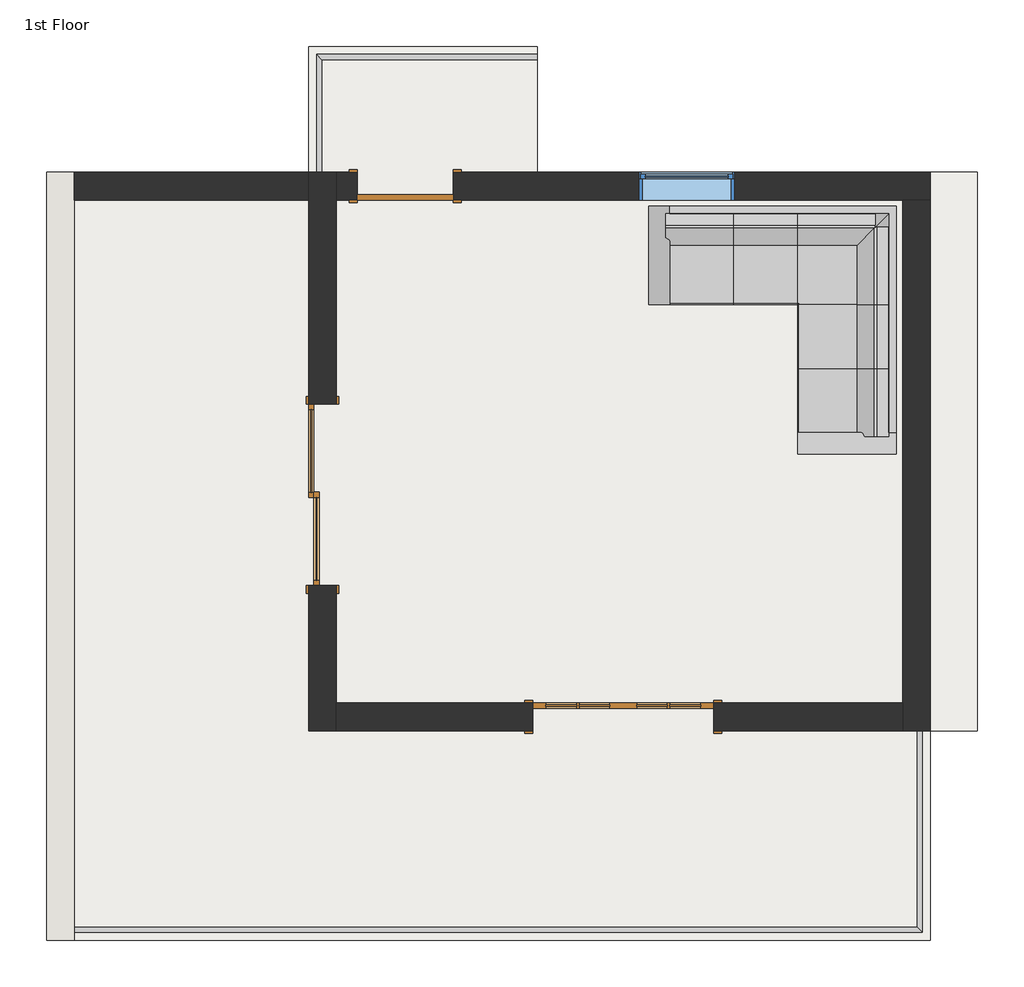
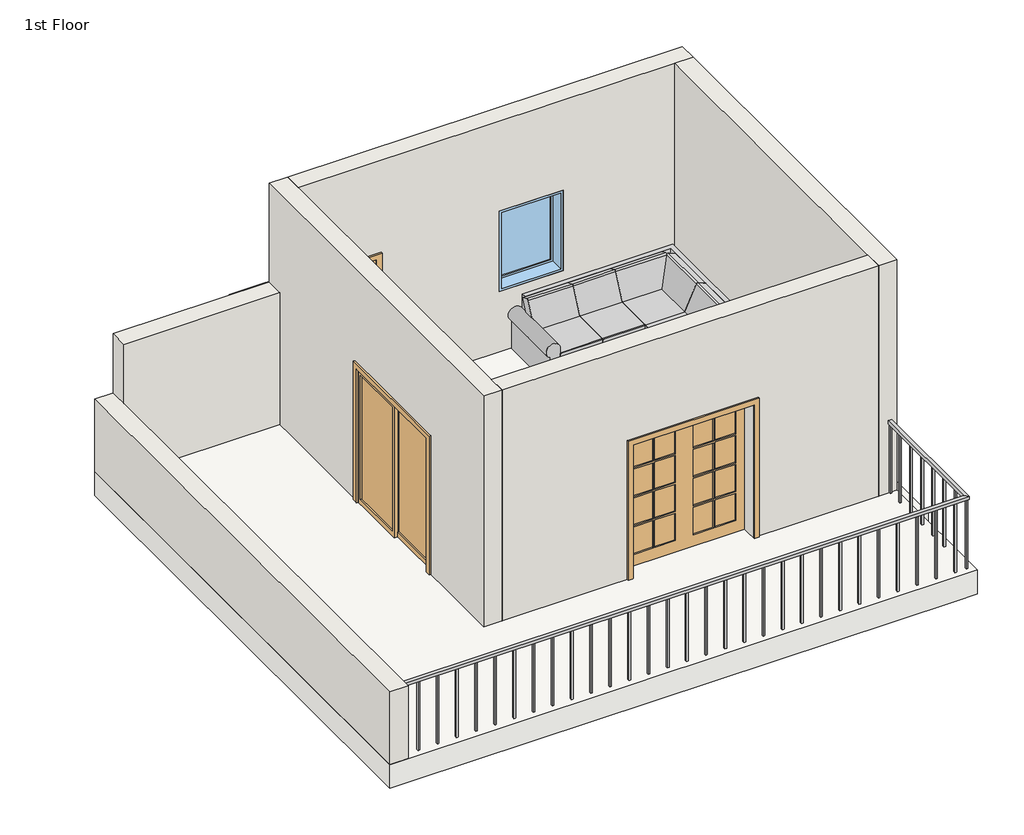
# One storey: 6 walls, 3 doors, 2 railings, 2 slabs, 1 furniture element, 1 window.
"""IFC4 building model written with IfcOpenShell, lengths in millimetres."""

from ifc_helpers import new_model, si_unit, frame, origin, place, context, project, spatial, polyline, outline, extrude, faceted_brep, transform, mapped, element, save
from components import m_double_glass_2_1730_x_2032mm_0b333e25, m_single_flush_0915_x_2032mm_d69fe862, m_sliding_2_panel_1730_x_2032mm_289bf79d, corner_sofa_2406_corner_sofa_2406_fdd71140, m_fixed_0915_x_1220mm_db24ddbb

model = new_model("IFC4")

# Units and contexts
model_context = context("Model", 3, world=origin())
ifc_project = project(units=[si_unit("LENGTHUNIT", "METRE", prefix="MILLI")], contexts=[model_context])

# Site, building, storey
site = spatial("IfcSite", under=ifc_project)
building = spatial("IfcBuilding", under=site)
storey = spatial("IfcBuildingStorey", under=building, Name="1st Floor", Elevation=3000.0)

# Doors
placement = place(None, origin())
m_double_glass_2_1730_x_2032mm_shape = m_double_glass_2_1730_x_2032mm_0b333e25(model_context)
element("IfcDoor", 1, ObjectType="M_Double-Glass 2 : 1730 x 2032mm", at=placement, inside=storey, context=model_context, shape_type="MappedRepresentation", body=[
    mapped(m_double_glass_2_1730_x_2032mm_shape, transform((-2112.164818, -4985.3309608, 3000.0), x_axis=(1.0, 0.0, 0.0), y_axis=(0.0, 1.0, 0.0), z_axis=(0.0, 0.0, 1.0))),
])
m_single_flush_0915_x_2032mm_shape = m_single_flush_0915_x_2032mm_d69fe862(model_context)
element("IfcDoor", 2, ObjectType="M_Single-Flush : 0915 x 2032mm", at=placement, inside=storey, context=model_context, shape_type="MappedRepresentation", body=[
    mapped(m_single_flush_0915_x_2032mm_shape, transform((-4190.664818, 78.6690392, 3000.0), x_axis=(-1.0, 0.0, 0.0), y_axis=(0.0, -1.0, 0.0), z_axis=(0.0, 0.0, 1.0))),
])
m_sliding_2_panel_1730_x_2032mm_shape = m_sliding_2_panel_1730_x_2032mm_289bf79d(model_context)
element("IfcDoor", 3, ObjectType="M_Sliding-2 Panel : 1730 x 2032mm", at=placement, inside=storey, context=model_context, shape_type="MappedRepresentation", body=[
    mapped(m_sliding_2_panel_1730_x_2032mm_shape, transform((-4853.164818, -2867.3309608, 3000.0), x_axis=(0.0, -1.0, 0.0), y_axis=(1.0, 0.0, 0.0), z_axis=(0.0, 0.0, 1.0))),
])

# Furniture
corner_sofa_2406_corner_sofa_2406_shape = corner_sofa_2406_corner_sofa_2406_fdd71140(model_context)
element("IfcFurniture", 4, ObjectType="Corner_Sofa_2406 : Corner_Sofa_2406", at=placement, inside=storey, context=model_context, shape_type="MappedRepresentation", body=[
    mapped(corner_sofa_2406_corner_sofa_2406_shape, transform((-588.164818, -113.3309608, 3000.0), x_axis=(1.0, 0.0, 0.0), y_axis=(0.0, 1.0, 0.0), z_axis=(0.0, 0.0, 1.0))),
])

# Railings
element("IfcRailing", 5, ObjectType="1100mm", at=placement, inside=storey, context=model_context, shape_type="SolidModel", body=[
    faceted_brep([(-7420.164818, -6992.3309608, 4100.0), (-7420.164818, -6992.3309608, 4050.0), (-7420.164818, -7042.3309608, 4050.0), (-7420.164818, -7042.3309608, 4100.0), (690.835182, -6992.3309608, 4100.0), (690.835182, -6992.3309608, 4050.0), (740.835182, -7042.3309608, 4050.0), (740.835182, -7042.3309608, 4100.0), (690.835182, -5117.3309608, 4100.0), (740.835182, -5117.3309608, 4100.0), (740.835182, -5117.3309608, 4050.0), (690.835182, -5117.3309608, 4050.0)], [[[0, 1, 2, 3]], [[1, 0, 4, 5]], [[2, 1, 5, 6]], [[3, 2, 6, 7]], [[0, 3, 7, 4]], [[8, 9, 10, 11]], [[5, 4, 8, 11]], [[6, 5, 11, 10]], [[7, 6, 10, 9]], [[4, 7, 9, 8]]]),
    extrude(outline(polyline([(728.335182, -5379.8309608), (703.335182, -5379.8309608), (703.335182, -5354.8309608), (728.335182, -5354.8309608), (728.335182, -5379.8309608)])), frame((0.0, 0.0, 3000.0), z_axis=(0.0, 0.0, 1.0), x_axis=(1.0, 0.0, 0.0)), (0.0, 0.0, 1.0), 1050.0),
    extrude(outline(polyline([(728.335182, -5654.8309608), (703.335182, -5654.8309608), (703.335182, -5629.8309608), (728.335182, -5629.8309608), (728.335182, -5654.8309608)])), frame((0.0, 0.0, 3000.0), z_axis=(0.0, 0.0, 1.0), x_axis=(1.0, 0.0, 0.0)), (0.0, 0.0, 1.0), 1050.0),
    extrude(outline(polyline([(728.335182, -5929.8309608), (703.335182, -5929.8309608), (703.335182, -5904.8309608), (728.335182, -5904.8309608), (728.335182, -5929.8309608)])), frame((0.0, 0.0, 3000.0), z_axis=(0.0, 0.0, 1.0), x_axis=(1.0, 0.0, 0.0)), (0.0, 0.0, 1.0), 1050.0),
    extrude(outline(polyline([(728.335182, -6204.8309608), (703.335182, -6204.8309608), (703.335182, -6179.8309608), (728.335182, -6179.8309608), (728.335182, -6204.8309608)])), frame((0.0, 0.0, 3000.0), z_axis=(0.0, 0.0, 1.0), x_axis=(1.0, 0.0, 0.0)), (0.0, 0.0, 1.0), 1050.0),
    extrude(outline(polyline([(728.335182, -6479.8309608), (703.335182, -6479.8309608), (703.335182, -6454.8309608), (728.335182, -6454.8309608), (728.335182, -6479.8309608)])), frame((0.0, 0.0, 3000.0), z_axis=(0.0, 0.0, 1.0), x_axis=(1.0, 0.0, 0.0)), (0.0, 0.0, 1.0), 1050.0),
    extrude(outline(polyline([(728.335182, -6754.8309608), (703.335182, -6754.8309608), (703.335182, -6729.8309608), (728.335182, -6729.8309608), (728.335182, -6754.8309608)])), frame((0.0, 0.0, 3000.0), z_axis=(0.0, 0.0, 1.0), x_axis=(1.0, 0.0, 0.0)), (0.0, 0.0, 1.0), 1050.0),
    extrude(outline(polyline([(542.335182, -7029.8309608), (542.335182, -7004.8309608), (567.335182, -7004.8309608), (567.335182, -7029.8309608), (542.335182, -7029.8309608)])), frame((0.0, 0.0, 3000.0), z_axis=(0.0, 0.0, 1.0), x_axis=(1.0, 0.0, 0.0)), (0.0, 0.0, 1.0), 1050.0),
    extrude(outline(polyline([(267.335182, -7029.8309608), (267.335182, -7004.8309608), (292.335182, -7004.8309608), (292.335182, -7029.8309608), (267.335182, -7029.8309608)])), frame((0.0, 0.0, 3000.0), z_axis=(0.0, 0.0, 1.0), x_axis=(1.0, 0.0, 0.0)), (0.0, 0.0, 1.0), 1050.0),
    extrude(outline(polyline([(-7.664818, -7029.8309608), (-7.664818, -7004.8309608), (17.335182, -7004.8309608), (17.335182, -7029.8309608), (-7.664818, -7029.8309608)])), frame((0.0, 0.0, 3000.0), z_axis=(0.0, 0.0, 1.0), x_axis=(1.0, 0.0, 0.0)), (0.0, 0.0, 1.0), 1050.0),
    extrude(outline(polyline([(-282.664818, -7029.8309608), (-282.664818, -7004.8309608), (-257.664818, -7004.8309608), (-257.664818, -7029.8309608), (-282.664818, -7029.8309608)])), frame((0.0, 0.0, 3000.0), z_axis=(0.0, 0.0, 1.0), x_axis=(1.0, 0.0, 0.0)), (0.0, 0.0, 1.0), 1050.0),
    extrude(outline(polyline([(-557.664818, -7029.8309608), (-557.664818, -7004.8309608), (-532.664818, -7004.8309608), (-532.664818, -7029.8309608), (-557.664818, -7029.8309608)])), frame((0.0, 0.0, 3000.0), z_axis=(0.0, 0.0, 1.0), x_axis=(1.0, 0.0, 0.0)), (0.0, 0.0, 1.0), 1050.0),
    extrude(outline(polyline([(-832.664818, -7029.8309608), (-832.664818, -7004.8309608), (-807.664818, -7004.8309608), (-807.664818, -7029.8309608), (-832.664818, -7029.8309608)])), frame((0.0, 0.0, 3000.0), z_axis=(0.0, 0.0, 1.0), x_axis=(1.0, 0.0, 0.0)), (0.0, 0.0, 1.0), 1050.0),
    extrude(outline(polyline([(-1107.664818, -7029.8309608), (-1107.664818, -7004.8309608), (-1082.664818, -7004.8309608), (-1082.664818, -7029.8309608), (-1107.664818, -7029.8309608)])), frame((0.0, 0.0, 3000.0), z_axis=(0.0, 0.0, 1.0), x_axis=(1.0, 0.0, 0.0)), (0.0, 0.0, 1.0), 1050.0),
    extrude(outline(polyline([(-1382.664818, -7029.8309608), (-1382.664818, -7004.8309608), (-1357.664818, -7004.8309608), (-1357.664818, -7029.8309608), (-1382.664818, -7029.8309608)])), frame((0.0, 0.0, 3000.0), z_axis=(0.0, 0.0, 1.0), x_axis=(1.0, 0.0, 0.0)), (0.0, 0.0, 1.0), 1050.0),
    extrude(outline(polyline([(-1657.664818, -7029.8309608), (-1657.664818, -7004.8309608), (-1632.664818, -7004.8309608), (-1632.664818, -7029.8309608), (-1657.664818, -7029.8309608)])), frame((0.0, 0.0, 3000.0), z_axis=(0.0, 0.0, 1.0), x_axis=(1.0, 0.0, 0.0)), (0.0, 0.0, 1.0), 1050.0),
    extrude(outline(polyline([(-1932.664818, -7029.8309608), (-1932.664818, -7004.8309608), (-1907.664818, -7004.8309608), (-1907.664818, -7029.8309608), (-1932.664818, -7029.8309608)])), frame((0.0, 0.0, 3000.0), z_axis=(0.0, 0.0, 1.0), x_axis=(1.0, 0.0, 0.0)), (0.0, 0.0, 1.0), 1050.0),
    extrude(outline(polyline([(-2207.664818, -7029.8309608), (-2207.664818, -7004.8309608), (-2182.664818, -7004.8309608), (-2182.664818, -7029.8309608), (-2207.664818, -7029.8309608)])), frame((0.0, 0.0, 3000.0), z_axis=(0.0, 0.0, 1.0), x_axis=(1.0, 0.0, 0.0)), (0.0, 0.0, 1.0), 1050.0),
    extrude(outline(polyline([(-2482.664818, -7029.8309608), (-2482.664818, -7004.8309608), (-2457.664818, -7004.8309608), (-2457.664818, -7029.8309608), (-2482.664818, -7029.8309608)])), frame((0.0, 0.0, 3000.0), z_axis=(0.0, 0.0, 1.0), x_axis=(1.0, 0.0, 0.0)), (0.0, 0.0, 1.0), 1050.0),
    extrude(outline(polyline([(-2757.664818, -7029.8309608), (-2757.664818, -7004.8309608), (-2732.664818, -7004.8309608), (-2732.664818, -7029.8309608), (-2757.664818, -7029.8309608)])), frame((0.0, 0.0, 3000.0), z_axis=(0.0, 0.0, 1.0), x_axis=(1.0, 0.0, 0.0)), (0.0, 0.0, 1.0), 1050.0),
    extrude(outline(polyline([(-3032.664818, -7029.8309608), (-3032.664818, -7004.8309608), (-3007.664818, -7004.8309608), (-3007.664818, -7029.8309608), (-3032.664818, -7029.8309608)])), frame((0.0, 0.0, 3000.0), z_axis=(0.0, 0.0, 1.0), x_axis=(1.0, 0.0, 0.0)), (0.0, 0.0, 1.0), 1050.0),
    extrude(outline(polyline([(-3307.664818, -7029.8309608), (-3307.664818, -7004.8309608), (-3282.664818, -7004.8309608), (-3282.664818, -7029.8309608), (-3307.664818, -7029.8309608)])), frame((0.0, 0.0, 3000.0), z_axis=(0.0, 0.0, 1.0), x_axis=(1.0, 0.0, 0.0)), (0.0, 0.0, 1.0), 1050.0),
    extrude(outline(polyline([(-3582.664818, -7029.8309608), (-3582.664818, -7004.8309608), (-3557.664818, -7004.8309608), (-3557.664818, -7029.8309608), (-3582.664818, -7029.8309608)])), frame((0.0, 0.0, 3000.0), z_axis=(0.0, 0.0, 1.0), x_axis=(1.0, 0.0, 0.0)), (0.0, 0.0, 1.0), 1050.0),
    extrude(outline(polyline([(-3857.664818, -7029.8309608), (-3857.664818, -7004.8309608), (-3832.664818, -7004.8309608), (-3832.664818, -7029.8309608), (-3857.664818, -7029.8309608)])), frame((0.0, 0.0, 3000.0), z_axis=(0.0, 0.0, 1.0), x_axis=(1.0, 0.0, 0.0)), (0.0, 0.0, 1.0), 1050.0),
    extrude(outline(polyline([(-4132.664818, -7029.8309608), (-4132.664818, -7004.8309608), (-4107.664818, -7004.8309608), (-4107.664818, -7029.8309608), (-4132.664818, -7029.8309608)])), frame((0.0, 0.0, 3000.0), z_axis=(0.0, 0.0, 1.0), x_axis=(1.0, 0.0, 0.0)), (0.0, 0.0, 1.0), 1050.0),
    extrude(outline(polyline([(-4407.664818, -7029.8309608), (-4407.664818, -7004.8309608), (-4382.664818, -7004.8309608), (-4382.664818, -7029.8309608), (-4407.664818, -7029.8309608)])), frame((0.0, 0.0, 3000.0), z_axis=(0.0, 0.0, 1.0), x_axis=(1.0, 0.0, 0.0)), (0.0, 0.0, 1.0), 1050.0),
    extrude(outline(polyline([(-4682.664818, -7029.8309608), (-4682.664818, -7004.8309608), (-4657.664818, -7004.8309608), (-4657.664818, -7029.8309608), (-4682.664818, -7029.8309608)])), frame((0.0, 0.0, 3000.0), z_axis=(0.0, 0.0, 1.0), x_axis=(1.0, 0.0, 0.0)), (0.0, 0.0, 1.0), 1050.0),
    extrude(outline(polyline([(-4957.664818, -7029.8309608), (-4957.664818, -7004.8309608), (-4932.664818, -7004.8309608), (-4932.664818, -7029.8309608), (-4957.664818, -7029.8309608)])), frame((0.0, 0.0, 3000.0), z_axis=(0.0, 0.0, 1.0), x_axis=(1.0, 0.0, 0.0)), (0.0, 0.0, 1.0), 1050.0),
    extrude(outline(polyline([(-5232.664818, -7029.8309608), (-5232.664818, -7004.8309608), (-5207.664818, -7004.8309608), (-5207.664818, -7029.8309608), (-5232.664818, -7029.8309608)])), frame((0.0, 0.0, 3000.0), z_axis=(0.0, 0.0, 1.0), x_axis=(1.0, 0.0, 0.0)), (0.0, 0.0, 1.0), 1050.0),
    extrude(outline(polyline([(-5507.664818, -7029.8309608), (-5507.664818, -7004.8309608), (-5482.664818, -7004.8309608), (-5482.664818, -7029.8309608), (-5507.664818, -7029.8309608)])), frame((0.0, 0.0, 3000.0), z_axis=(0.0, 0.0, 1.0), x_axis=(1.0, 0.0, 0.0)), (0.0, 0.0, 1.0), 1050.0),
    extrude(outline(polyline([(-5782.664818, -7029.8309608), (-5782.664818, -7004.8309608), (-5757.664818, -7004.8309608), (-5757.664818, -7029.8309608), (-5782.664818, -7029.8309608)])), frame((0.0, 0.0, 3000.0), z_axis=(0.0, 0.0, 1.0), x_axis=(1.0, 0.0, 0.0)), (0.0, 0.0, 1.0), 1050.0),
    extrude(outline(polyline([(-6057.664818, -7029.8309608), (-6057.664818, -7004.8309608), (-6032.664818, -7004.8309608), (-6032.664818, -7029.8309608), (-6057.664818, -7029.8309608)])), frame((0.0, 0.0, 3000.0), z_axis=(0.0, 0.0, 1.0), x_axis=(1.0, 0.0, 0.0)), (0.0, 0.0, 1.0), 1050.0),
    extrude(outline(polyline([(-6332.664818, -7029.8309608), (-6332.664818, -7004.8309608), (-6307.664818, -7004.8309608), (-6307.664818, -7029.8309608), (-6332.664818, -7029.8309608)])), frame((0.0, 0.0, 3000.0), z_axis=(0.0, 0.0, 1.0), x_axis=(1.0, 0.0, 0.0)), (0.0, 0.0, 1.0), 1050.0),
    extrude(outline(polyline([(-6607.664818, -7029.8309608), (-6607.664818, -7004.8309608), (-6582.664818, -7004.8309608), (-6582.664818, -7029.8309608), (-6607.664818, -7029.8309608)])), frame((0.0, 0.0, 3000.0), z_axis=(0.0, 0.0, 1.0), x_axis=(1.0, 0.0, 0.0)), (0.0, 0.0, 1.0), 1050.0),
    extrude(outline(polyline([(-6882.664818, -7029.8309608), (-6882.664818, -7004.8309608), (-6857.664818, -7004.8309608), (-6857.664818, -7029.8309608), (-6882.664818, -7029.8309608)])), frame((0.0, 0.0, 3000.0), z_axis=(0.0, 0.0, 1.0), x_axis=(1.0, 0.0, 0.0)), (0.0, 0.0, 1.0), 1050.0),
    extrude(outline(polyline([(-7157.664818, -7029.8309608), (-7157.664818, -7004.8309608), (-7132.664818, -7004.8309608), (-7132.664818, -7029.8309608), (-7157.664818, -7029.8309608)])), frame((0.0, 0.0, 3000.0), z_axis=(0.0, 0.0, 1.0), x_axis=(1.0, 0.0, 0.0)), (0.0, 0.0, 1.0), 1050.0),
    extrude(outline(polyline([(703.335182, -7029.8309608), (703.335182, -7004.8309608), (728.335182, -7004.8309608), (728.335182, -7029.8309608), (703.335182, -7029.8309608)])), frame((0.0, 0.0, 3000.0), z_axis=(0.0, 0.0, 1.0), x_axis=(1.0, 0.0, 0.0)), (0.0, 0.0, 1.0), 1050.0),
    extrude(outline(polyline([(728.335182, -5142.3309608), (703.335182, -5142.3309608), (703.335182, -5117.3309608), (728.335182, -5117.3309608), (728.335182, -5142.3309608)])), frame((0.0, 0.0, 3000.0), z_axis=(0.0, 0.0, 1.0), x_axis=(1.0, 0.0, 0.0)), (0.0, 0.0, 1.0), 1050.0),
    extrude(outline(polyline([(-7420.164818, -7029.8309608), (-7420.164818, -7004.8309608), (-7395.164818, -7004.8309608), (-7395.164818, -7029.8309608), (-7420.164818, -7029.8309608)])), frame((0.0, 0.0, 3000.0), z_axis=(0.0, 0.0, 1.0), x_axis=(1.0, 0.0, 0.0)), (0.0, 0.0, 1.0), 1050.0),
])
element("IfcRailing", 6, ObjectType="1100mm", at=placement, inside=storey, context=model_context, shape_type="SolidModel", body=[
    faceted_brep([(-2934.164818, 1285.6690392, 4100.0), (-2934.164818, 1285.6690392, 4050.0), (-2934.164818, 1335.6690392, 4050.0), (-2934.164818, 1335.6690392, 4100.0), (-4987.164818, 1285.6690392, 4100.0), (-4987.164818, 1285.6690392, 4050.0), (-5037.164818, 1335.6690392, 4050.0), (-5037.164818, 1335.6690392, 4100.0), (-4987.164818, 210.6690392, 4100.0), (-5037.164818, 210.6690392, 4100.0), (-5037.164818, 210.6690392, 4050.0), (-4987.164818, 210.6690392, 4050.0)], [[[0, 1, 2, 3]], [[1, 0, 4, 5]], [[2, 1, 5, 6]], [[3, 2, 6, 7]], [[0, 3, 7, 4]], [[8, 9, 10, 11]], [[5, 4, 8, 11]], [[6, 5, 11, 10]], [[7, 6, 10, 9]], [[4, 7, 9, 8]]]),
    extrude(outline(polyline([(-5024.664818, 498.1690392), (-4999.664818, 498.1690392), (-4999.664818, 473.1690392), (-5024.664818, 473.1690392), (-5024.664818, 498.1690392)])), frame((0.0, 0.0, 3000.0), z_axis=(0.0, 0.0, 1.0), x_axis=(1.0, 0.0, 0.0)), (0.0, 0.0, 1.0), 1050.0),
    extrude(outline(polyline([(-5024.664818, 773.1690392), (-4999.664818, 773.1690392), (-4999.664818, 748.1690392), (-5024.664818, 748.1690392), (-5024.664818, 773.1690392)])), frame((0.0, 0.0, 3000.0), z_axis=(0.0, 0.0, 1.0), x_axis=(1.0, 0.0, 0.0)), (0.0, 0.0, 1.0), 1050.0),
    extrude(outline(polyline([(-5024.664818, 1048.1690392), (-4999.664818, 1048.1690392), (-4999.664818, 1023.1690392), (-5024.664818, 1023.1690392), (-5024.664818, 1048.1690392)])), frame((0.0, 0.0, 3000.0), z_axis=(0.0, 0.0, 1.0), x_axis=(1.0, 0.0, 0.0)), (0.0, 0.0, 1.0), 1050.0),
    extrude(outline(polyline([(-4846.664818, 1323.1690392), (-4846.664818, 1298.1690392), (-4871.664818, 1298.1690392), (-4871.664818, 1323.1690392), (-4846.664818, 1323.1690392)])), frame((0.0, 0.0, 3000.0), z_axis=(0.0, 0.0, 1.0), x_axis=(1.0, 0.0, 0.0)), (0.0, 0.0, 1.0), 1050.0),
    extrude(outline(polyline([(-4571.664818, 1323.1690392), (-4571.664818, 1298.1690392), (-4596.664818, 1298.1690392), (-4596.664818, 1323.1690392), (-4571.664818, 1323.1690392)])), frame((0.0, 0.0, 3000.0), z_axis=(0.0, 0.0, 1.0), x_axis=(1.0, 0.0, 0.0)), (0.0, 0.0, 1.0), 1050.0),
    extrude(outline(polyline([(-4296.664818, 1323.1690392), (-4296.664818, 1298.1690392), (-4321.664818, 1298.1690392), (-4321.664818, 1323.1690392), (-4296.664818, 1323.1690392)])), frame((0.0, 0.0, 3000.0), z_axis=(0.0, 0.0, 1.0), x_axis=(1.0, 0.0, 0.0)), (0.0, 0.0, 1.0), 1050.0),
    extrude(outline(polyline([(-4021.664818, 1323.1690392), (-4021.664818, 1298.1690392), (-4046.664818, 1298.1690392), (-4046.664818, 1323.1690392), (-4021.664818, 1323.1690392)])), frame((0.0, 0.0, 3000.0), z_axis=(0.0, 0.0, 1.0), x_axis=(1.0, 0.0, 0.0)), (0.0, 0.0, 1.0), 1050.0),
    extrude(outline(polyline([(-3746.664818, 1323.1690392), (-3746.664818, 1298.1690392), (-3771.664818, 1298.1690392), (-3771.664818, 1323.1690392), (-3746.664818, 1323.1690392)])), frame((0.0, 0.0, 3000.0), z_axis=(0.0, 0.0, 1.0), x_axis=(1.0, 0.0, 0.0)), (0.0, 0.0, 1.0), 1050.0),
    extrude(outline(polyline([(-3471.664818, 1323.1690392), (-3471.664818, 1298.1690392), (-3496.664818, 1298.1690392), (-3496.664818, 1323.1690392), (-3471.664818, 1323.1690392)])), frame((0.0, 0.0, 3000.0), z_axis=(0.0, 0.0, 1.0), x_axis=(1.0, 0.0, 0.0)), (0.0, 0.0, 1.0), 1050.0),
    extrude(outline(polyline([(-3196.664818, 1323.1690392), (-3196.664818, 1298.1690392), (-3221.664818, 1298.1690392), (-3221.664818, 1323.1690392), (-3196.664818, 1323.1690392)])), frame((0.0, 0.0, 3000.0), z_axis=(0.0, 0.0, 1.0), x_axis=(1.0, 0.0, 0.0)), (0.0, 0.0, 1.0), 1050.0),
    extrude(outline(polyline([(-4999.664818, 1323.1690392), (-4999.664818, 1298.1690392), (-5024.664818, 1298.1690392), (-5024.664818, 1323.1690392), (-4999.664818, 1323.1690392)])), frame((0.0, 0.0, 3000.0), z_axis=(0.0, 0.0, 1.0), x_axis=(1.0, 0.0, 0.0)), (0.0, 0.0, 1.0), 1050.0),
    extrude(outline(polyline([(-5024.664818, 235.6690392), (-4999.664818, 235.6690392), (-4999.664818, 210.6690392), (-5024.664818, 210.6690392), (-5024.664818, 235.6690392)])), frame((0.0, 0.0, 3000.0), z_axis=(0.0, 0.0, 1.0), x_axis=(1.0, 0.0, 0.0)), (0.0, 0.0, 1.0), 1050.0),
    extrude(outline(polyline([(-2934.164818, 1323.1690392), (-2934.164818, 1298.1690392), (-2959.164818, 1298.1690392), (-2959.164818, 1323.1690392), (-2934.164818, 1323.1690392)])), frame((0.0, 0.0, 3000.0), z_axis=(0.0, 0.0, 1.0), x_axis=(1.0, 0.0, 0.0)), (0.0, 0.0, 1.0), 1050.0),
])

# Slabs
element("IfcSlab", 7, ObjectType="Beam and Block 200mm", at=placement, inside=storey, context=model_context, shape_type="SweptSolid", body=[
    extrude(outline(polyline([(815.835182, 210.6690392), (1265.835182, 210.6690392), (1265.835182, -5117.3309608), (815.835182, -5117.3309608), (815.835182, 210.6690392)])), frame((0.0, 0.0, 2300.0), z_axis=(0.0, 0.0, 1.0), x_axis=(1.0, 0.0, 0.0)), (0.0, 0.0, 1.0), 200.0),
])
element("IfcSlab", 8, ObjectType="Concrete-Commercial 362mm", at=placement, inside=storey, context=model_context, shape_type="Brep", body=[
    faceted_brep([(-5112.164818, 210.6690392, 2638.0), (-5112.164818, 1410.6690392, 2638.0), (-2934.164818, 1410.6690392, 2638.0), (-2934.164818, 210.6690392, 2638.0), (515.835182, 210.6690392, 2638.0), (815.835182, 210.6690392, 2638.0), (815.835182, -89.3309608, 2638.0), (815.835182, -6817.3309608, 2638.0), (815.835182, -7117.3309608, 2638.0), (515.835182, -7117.3309608, 2638.0), (-7312.164818, -7117.3309608, 2638.0), (-7612.164818, -7117.3309608, 2638.0), (-7612.164818, -6817.3309608, 2638.0), (-7612.164818, -89.3309608, 2638.0), (-7612.164818, 210.6690392, 2638.0), (-7312.164818, 210.6690392, 2638.0), (-5112.164818, 210.6690392, 3000.0), (-7612.164818, 210.6690392, 3000.0), (-7612.164818, -7117.3309608, 3000.0), (815.835182, -7117.3309608, 3000.0), (815.835182, 210.6690392, 3000.0), (-2934.164818, 210.6690392, 3000.0), (-2934.164818, 1410.6690392, 3000.0), (-5112.164818, 1410.6690392, 3000.0)], [[[0, 1, 2, 3, 4, 5, 6, 7, 8, 9, 10, 11, 12, 13, 14, 15]], [[16, 17, 18, 19, 20, 21, 22, 23]], [[8, 7, 6, 5, 20, 19]], [[11, 10, 9, 8, 19, 18]], [[14, 13, 12, 11, 18, 17]], [[0, 15, 14, 17, 16]], [[1, 0, 16, 23]], [[2, 1, 23, 22]], [[3, 2, 22, 21]], [[5, 4, 3, 21, 20]]]),
])

# Walls
element("IfcWall", 9, ObjectType="CW 102-50-100p  W Cornice", at=placement, inside=storey, context=model_context, shape_type="Brep", body=[
    faceted_brep([(-4848.164818, 210.6690392, 6500.0), (-4848.164818, -53.3309608, 6500.0), (-4848.164818, -4853.3309608, 6500.0), (-4848.164818, -5117.3309608, 6500.0), (-4848.164818, -5117.3309608, 3000.0), (-4848.164818, -4853.3309608, 3000.0), (-4848.164818, -3732.3309608, 3000.0), (-4848.164818, -3732.3309608, 5032.0), (-4848.164818, -2002.3309608, 5032.0), (-4848.164818, -2002.3309608, 3000.0), (-4848.164818, -53.3309608, 3000.0), (-4848.164818, 210.6690392, 3000.0), (-5112.164818, -5117.3309608, 6500.0), (-5112.164818, 210.6690392, 6500.0), (-5112.164818, 210.6690392, 5000.0), (-5112.164818, 210.6690392, 3000.0), (-5112.164818, -53.3309608, 3000.0), (-5112.164818, -2002.3309608, 3000.0), (-5112.164818, -2002.3309608, 5032.0), (-5112.164818, -3732.3309608, 5032.0), (-5112.164818, -3732.3309608, 3000.0), (-5112.164818, -5117.3309608, 3000.0)], [[[0, 1, 2, 3, 4, 5, 6, 7, 8, 9, 10, 11]], [[12, 13, 14, 15, 16, 17, 18, 19, 20, 21]], [[15, 11, 10, 9, 17, 16]], [[4, 21, 20, 6, 5]], [[3, 2, 1, 0, 13, 12]], [[4, 3, 12, 21]], [[11, 15, 14, 13, 0]], [[19, 7, 6, 20]], [[8, 18, 17, 9]], [[18, 8, 7, 19]]]),
])
element("IfcWall", 10, ObjectType="CW 102-50-100p  W Cornice", at=placement, inside=storey, context=model_context, shape_type="Brep", body=[
    faceted_brep([(-4848.164818, -53.3309608, 3000.0), (-4648.164818, -53.3309608, 3000.0), (-4648.164818, -53.3309608, 5032.0), (-3733.164818, -53.3309608, 5032.0), (-3733.164818, -53.3309608, 3000.0), (551.835182, -53.3309608, 3000.0), (815.835182, -53.3309608, 3000.0), (815.835182, -53.3309608, 6500.0), (551.835182, -53.3309608, 6500.0), (-4848.164818, -53.3309608, 6500.0), (-1048.164818, -53.3309608, 3915.0), (-1963.164818, -53.3309608, 3915.0), (-1963.164818, -53.3309608, 5135.0), (-1048.164818, -53.3309608, 5135.0), (-4648.164818, 210.6690392, 5032.0), (-4648.164818, 210.6690392, 3000.0), (-4848.164818, 210.6690392, 3000.0), (-4848.164818, 210.6690392, 6500.0), (815.835182, 210.6690392, 6500.0), (815.835182, 210.6690392, 3000.0), (-3733.164818, 210.6690392, 3000.0), (-3733.164818, 210.6690392, 5032.0), (-1048.164818, 210.6690392, 3915.0), (-1048.164818, 210.6690392, 5135.0), (-1963.164818, 210.6690392, 5135.0), (-1963.164818, 210.6690392, 3915.0)], [[[0, 1, 2, 3, 4, 5, 6, 7, 8, 9], [10, 11, 12, 13]], [[14, 15, 16, 17, 18, 19, 20, 21], [22, 23, 24, 25]], [[20, 19, 6, 5, 4]], [[16, 15, 1, 0]], [[9, 8, 7, 18, 17]], [[7, 6, 19, 18]], [[9, 17, 16, 0]], [[2, 1, 15, 14]], [[3, 2, 14, 21]], [[4, 3, 21, 20]], [[23, 22, 10, 13]], [[24, 23, 13, 12]], [[25, 24, 12, 11]], [[22, 25, 11, 10]]]),
])
element("IfcWall", 11, ObjectType="CW 102-50-100p  W Cornice", at=placement, inside=storey, context=model_context, shape_type="Brep", body=[
    faceted_brep([(551.835182, -53.3309608, 3000.0), (551.835182, -4853.3309608, 3000.0), (551.835182, -5117.3309608, 3000.0), (551.835182, -5117.3309608, 6500.0), (551.835182, -4853.3309608, 6500.0), (551.835182, -53.3309608, 6500.0), (815.835182, -53.3309608, 3000.0), (815.835182, -53.3309608, 6500.0), (815.835182, -5117.3309608, 6500.0), (815.835182, -5117.3309608, 3000.0)], [[[0, 1, 2, 3, 4, 5]], [[6, 7, 8, 9]], [[2, 1, 0, 6, 9]], [[5, 4, 3, 8, 7]], [[0, 5, 7, 6]], [[3, 2, 9, 8]]]),
])
element("IfcWall", 12, ObjectType="CW 102-50-100p  W Cornice", at=placement, inside=storey, context=model_context, shape_type="SweptSolid", body=[
    extrude(outline(polyline([(6500.0, 551.835182), (6500.0, -4848.164818), (3000.0, -4848.164818), (3000.0, -2977.164818), (5032.0, -2977.164818), (5032.0, -1247.164818), (3000.0, -1247.164818), (3000.0, 551.835182), (6500.0, 551.835182)])), frame((0.0, -5117.3309608, 0.0), z_axis=(0.0, 1.0, 0.0), x_axis=(0.0, 0.0, 1.0)), (0.0, 0.0, 1.0), 264.0),
])
element("IfcWall", 13, ObjectType="CW 102-50-100p", at=placement, inside=storey, context=model_context, shape_type="Brep", body=[
    faceted_brep([(-7612.164818, 210.6690392, 3000.0), (-7612.164818, -7117.3309608, 3000.0), (-7612.164818, -7117.3309608, 4100.0), (-7612.164818, 210.6690392, 4100.0), (-7348.164818, 210.6690392, 3000.0), (-7348.164818, 210.6690392, 4100.0), (-7348.164818, -7117.3309608, 4100.0), (-7348.164818, -7117.3309608, 3000.0), (-7348.164818, -53.3309608, 3000.0)], [[[0, 1, 2, 3]], [[4, 5, 6, 7, 8]], [[1, 0, 4, 8, 7]], [[2, 1, 7, 6]], [[3, 2, 6, 5]], [[0, 3, 5, 4]]]),
])
element("IfcWall", 14, ObjectType="CW 102-50-100p", at=placement, inside=storey, context=model_context, shape_type="Brep", body=[
    faceted_brep([(-5112.164818, 210.6690392, 3000.0), (-7348.164818, 210.6690392, 3000.0), (-7348.164818, 210.6690392, 4100.0), (-7348.164818, 210.6690392, 5000.0), (-5112.164818, 210.6690392, 5000.0), (-5112.164818, -53.3309608, 3000.0), (-5112.164818, -53.3309608, 5000.0), (-7348.164818, -53.3309608, 5000.0), (-7348.164818, -53.3309608, 3000.0)], [[[0, 1, 2, 3, 4]], [[5, 6, 7, 8]], [[1, 0, 5, 8]], [[4, 3, 7, 6]], [[0, 4, 6, 5]], [[3, 2, 1, 8, 7]]]),
])

# Window
m_fixed_0915_x_1220mm_shape = m_fixed_0915_x_1220mm_db24ddbb(model_context)
element("IfcWindow", 15, ObjectType="M_Fixed : 0915 x 1220mm", at=placement, inside=storey, context=model_context, shape_type="MappedRepresentation", body=[
    mapped(m_fixed_0915_x_1220mm_shape, transform((-1505.664818, 65.6690392, 3000.0), x_axis=(-1.0, 0.0, 0.0), y_axis=(0.0, -1.0, 0.0), z_axis=(0.0, 0.0, 1.0))),
])

save(model, "model.ifc")
